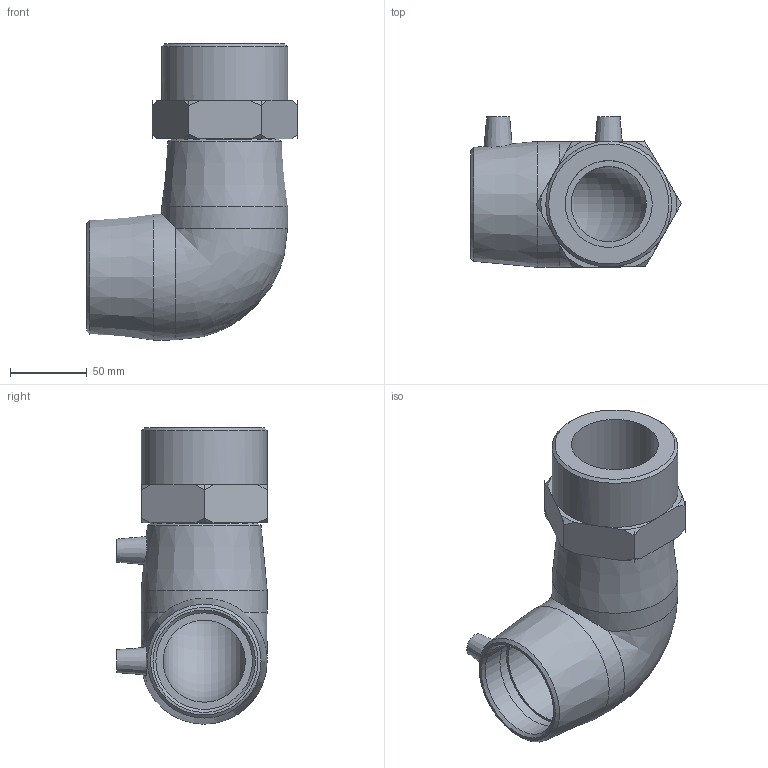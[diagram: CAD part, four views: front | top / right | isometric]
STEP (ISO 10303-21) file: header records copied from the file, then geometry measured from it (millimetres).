
FILE_DESCRIPTION(/* description */ ('PLASSON 90° ELBOW FEMALE TRANSITION 63 x 2'''''),/* implementation_level */ '2;1');
FILE_NAME(/* name */ 'C:\Dropbox\KIMPROJECTS-Inventor\99-16-3568-Processing\ElectroFusion Fittings\02.02.20\493504\493504063020N.ipt.stp',/* time_stamp */ '2020-02-02T12:34:40+02:00',/* author */ ('KIM'),/* organization */ (''),/* preprocessor_version */ 'ST-DEVELOPER v15.6',/* originating_system */ 'Autodesk Inventor 2015',/* authorisation */ '');
FILE_SCHEMA (('AUTOMOTIVE_DESIGN { 1 0 10303 214 3 1 1 }'));
Length unit declared in the file: millimetre
Products named in the file (1): 493504063020N
Bounding box: 137.34 x 98.11 x 193 mm (x, y, z)
Volume: 627170.9 mm3; surface area: 113811.9 mm2
Topology: 1 solids, 2 shells, 88 faces, 218 edges, 141 vertices
Faces by surface type: plane 39, cylinder 25, cone 22, bspline 1, torus 1
Full cylindrical faces by diameter (mm): 4 x2, 10 x2, 49 x1, 56.656 x1, 63 x4, 82 x3
Entity records: 2555 total; most frequent: CARTESIAN_POINT 536, DIRECTION 408, ORIENTED_EDGE 356, EDGE_CURVE 178, AXIS2_PLACEMENT_3D 168, VERTEX_POINT 129, EDGE_LOOP 127, STYLED_ITEM 89
